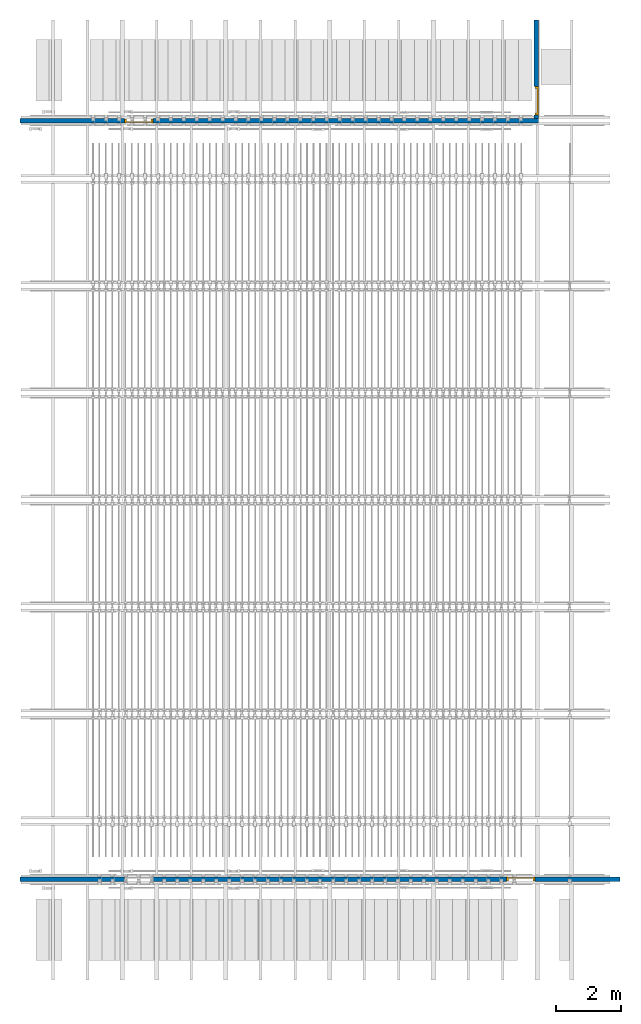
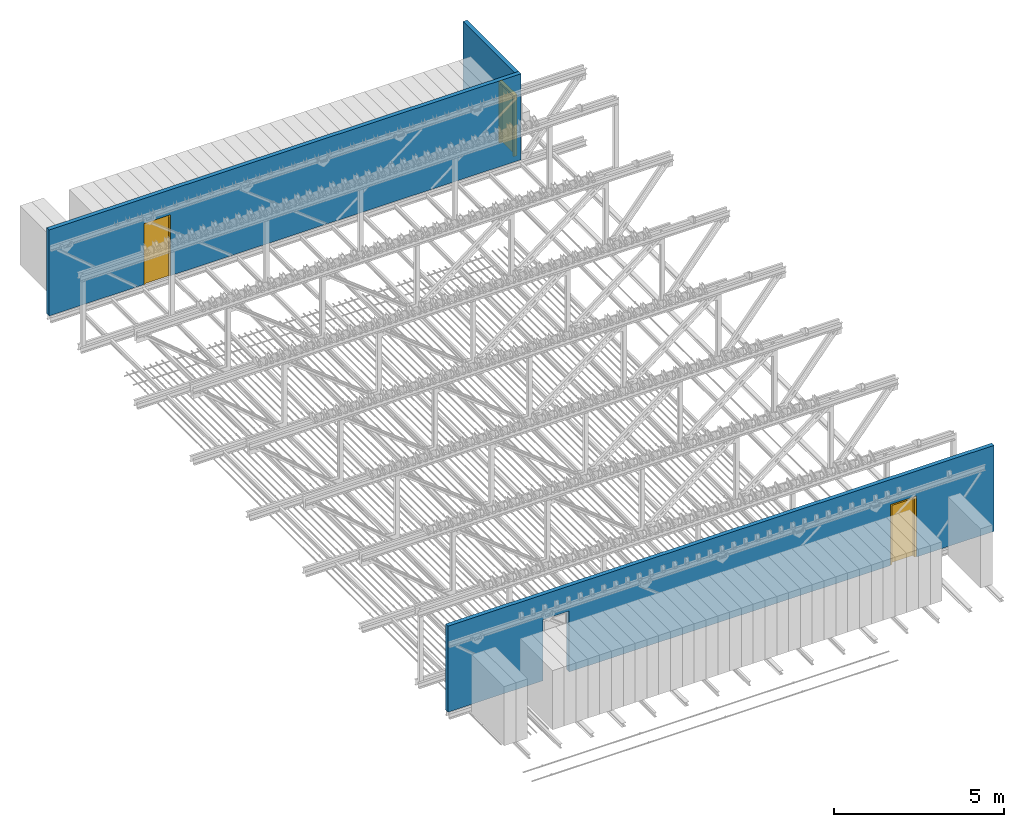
# One storey, part 4 of 8: 3 doors, 3 walls, 4 openings.
"""IFC2X3 building model written with IfcOpenShell, lengths in millimetres."""

from ifc_helpers import new_model, entity, si_unit, converted_unit, direction, frame, frame_2d, origin, place, context, subcontext, project, spatial, rectangle, extrude, faceted_brep, source, transform, mapped, material, material_list, layer, layer_set, layer_usage, type_object, type_shapes, element, fill, save


model = new_model("IFC2X3")

# Units and contexts
model_context = context("Model", 3, precision=0.01, world=origin(), true_north=direction((6.123233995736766e-17, 1.0)))
body_context = subcontext(model_context, "Body", "Model", "MODEL_VIEW")
ifc_project = project(units=[si_unit("LENGTHUNIT", "METRE", prefix="MILLI"), si_unit("AREAUNIT", "SQUARE_METRE"), converted_unit("PLANEANGLEUNIT", "DEGREE", entity("IfcPlaneAngleMeasure", 0.017453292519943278), si_unit("PLANEANGLEUNIT", "RADIAN"), dimensions=[0, 0, 0, 0, 0, 0, 0])], contexts=[model_context])

# Site, building, storey
site_placement = place(None, origin())
site = spatial("IfcSite", under=ifc_project, at=site_placement, Name="Default", CompositionType="ELEMENT")
building_placement = place(site_placement, origin())
building = spatial("IfcBuilding", under=site, at=building_placement, CompositionType="ELEMENT")
storey_placement = place(building_placement, frame((0.0, 0.0, 30550.0)))
storey = spatial("IfcBuildingStorey", under=building, at=storey_placement, Name="Rollenzolder", CompositionType="ELEMENT", Elevation=30550.000000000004)

# Wall, opening, door
ifc_material_1 = material(Name="NL_20_wand")
ifc_layer = layer(ifc_material_1, 140.0)
ifc_layer_set = layer_set([ifc_layer], Name="Basic Wall:AL_20_basis_140")
ifc_layer_usage_1 = layer_usage(ifc_layer_set, "AXIS2", "NEGATIVE", 70.0)
wall_type = type_object("IfcWallType", Name="Basic Wall:AL_20_basis_140", PredefinedType="STANDARD", material=ifc_layer_set)
wall_1_placement = place(storey_placement, frame((6586.744931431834, 36231.167906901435, 0.0)))
wall_1 = element("IfcWallStandardCase", 1, at=wall_1_placement, inside=storey, type_object=wall_type, material=ifc_layer_usage_1, Name="Basic Wall:AL_20_basis_140", ObjectType="Basic Wall:AL_20_basis_140", context=body_context, shape_type="SweptSolid", body=[
    extrude(rectangle(XDim=15989.999999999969, YDim=140.0000000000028, at=frame_2d((7994.9999999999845, 0.0), x_axis=(-1.0, 0.0))), origin(), (0.0, 0.0, 1.0), 3079.999999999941),
])
opening_1_placement = place(wall_1_placement, frame((4104.0, 70.0, 0.0)))
opening_1 = element("IfcOpeningElement", 2, at=opening_1_placement, cuts=wall_1, Name="Binnendeur enkel:780x2115:1", ObjectType="Opening", context=body_context, shape_type="SweptSolid", body=[
    extrude(rectangle(XDim=2186.9999999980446, YDim=883.9999999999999, at=frame_2d((1093.4999999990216, 441.99999999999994), x_axis=(1.0, 0.0))), frame((0.0, 0.0, 0.0), z_axis=(0.0, -1.0, 0.0), x_axis=(0.0, 0.0, 1.0)), (0.0, 0.0, 1.0), 140.0),
])
ifc_material_2 = material(Name="Kozijn")
ifc_material_3 = material(Name="Deur")
ifc_material_list = material_list([ifc_material_2, ifc_material_3])
door_style = type_object("IfcDoorStyle", Name="Binnendeur enkel:780x2115", ConstructionType="NOTDEFINED", OperationType="SINGLE_SWING_RIGHT", ParameterTakesPrecedence=False, Sizeable=False, material=ifc_material_list)
shared_shape = source(origin(), body_context, "Body", "Brep", [
    faceted_brep([(884.0, 26.0, 0.0), (817.0, 26.0, 0.0), (817.0, 95.0, 0.0), (834.0, 95.0, 0.0), (834.0, 140.0, 0.0), (884.0, 140.0, 0.0), (884.0, 26.0, 2186.9999999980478), (0.0, 26.0, 2186.9999999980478), (0.0, 26.0, 0.0), (67.0, 26.0, 0.0), (67.0, 26.0, 2119.999999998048), (817.0, 26.0, 2119.999999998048), (817.0, 95.0, 2119.999999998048), (67.0, 95.0, 2119.999999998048), (67.0, 95.0, 0.0), (50.0, 95.0, 0.0), (50.0, 95.0, 2136.999999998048), (834.0, 95.0, 2136.999999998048), (834.0, 140.0, 2136.999999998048), (50.0, 140.0, 2136.999999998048), (50.0, 140.0, 0.0), (0.0, 140.0, 0.0), (0.0, 140.0, 2186.9999999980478), (884.0, 140.0, 2186.9999999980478)], [[[0, 1, 2, 3, 4, 5]], [[1, 0, 6, 7, 8, 9, 10, 11]], [[2, 1, 11, 12]], [[3, 2, 12, 13, 14, 15, 16, 17]], [[4, 3, 17, 18]], [[5, 4, 18, 19, 20, 21, 22, 23]], [[0, 5, 23, 6]], [[7, 22, 21, 8]], [[8, 21, 20, 15, 14, 9]], [[13, 10, 9, 14]], [[19, 16, 15, 20]], [[12, 11, 10, 13]], [[18, 17, 16, 19]], [[6, 23, 22, 7]]]),
    faceted_brep([(52.0, 95.0, 2135.0), (52.0, 95.0, 20.0), (832.0, 95.0, 20.0), (832.0, 95.0, 2135.0), (52.0, 135.0, 2135.0), (52.0, 135.0, 20.0), (832.0, 135.0, 20.0), (832.0, 135.0, 2135.0)], [[[0, 1, 2, 3]], [[1, 0, 4, 5]], [[2, 1, 5, 6]], [[3, 2, 6, 7]], [[4, 7, 6, 5]], [[0, 3, 7, 4]]]),
])
type_shapes(door_style, [shared_shape])
door_1_placement = place(opening_1_placement, frame((0.0, 0.0, 0.0), z_axis=(0.0, 0.0, 1.0), x_axis=(-1.0, 0.0, 0.0)))
door_1 = element("IfcDoor", 3, at=door_1_placement, inside=storey, type_object=door_style, material=ifc_material_list, Name="Binnendeur enkel:780x2115", ObjectType="Binnendeur enkel:780x2115", OverallHeight=2186.999999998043, OverallWidth=884.0000000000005, context=body_context, shape_type="MappedRepresentation", body=[
    mapped(shared_shape, transform((0.0, 0.0, 0.0), scale=1.0)),
])
fill(opening_1, door_1)

ifc_layer_usage_2 = layer_usage(ifc_layer_set, "AXIS2", "NEGATIVE", 70.0)
wall_2_placement = place(storey_placement, frame((22506.744931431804, 36301.167906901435, 0.0), z_axis=(0.0, 0.0, 1.0), x_axis=(0.0, 1.0, 0.0)))
wall_2 = element("IfcWallStandardCase", 4, at=wall_2_placement, inside=storey, type_object=wall_type, material=ifc_layer_usage_2, Name="Basic Wall:AL_20_basis_140", ObjectType="Basic Wall:AL_20_basis_140", context=body_context, shape_type="SweptSolid", body=[
    extrude(rectangle(XDim=3030.000000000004, YDim=140.00000000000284, at=frame_2d((1515.000000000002, -4.973799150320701e-14), x_axis=(-1.0, 0.0))), origin(), (0.0, 0.0, 1.0), 3079.999999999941),
])
opening_2_placement = place(wall_2_placement, frame((980.4999999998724, 70.0, 0.0)))
opening_2 = element("IfcOpeningElement", 5, at=opening_2_placement, cuts=wall_2, Name="Binnendeur enkel:780x2115:1", ObjectType="Opening", context=body_context, shape_type="SweptSolid", body=[
    extrude(rectangle(XDim=2186.9999999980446, YDim=883.9999999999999, at=frame_2d((1093.4999999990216, 441.99999999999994), x_axis=(1.0, 0.0))), frame((0.0, 0.0, 0.0), z_axis=(0.0, -1.0, 0.0), x_axis=(0.0, 0.0, 1.0)), (0.0, 0.0, 1.0), 140.0),
])
door_2_placement = place(opening_2_placement, frame((0.0, 0.0, 0.0), z_axis=(0.0, 0.0, 1.0), x_axis=(-1.0, 0.0, 0.0)))
door_2 = element("IfcDoor", 6, at=door_2_placement, inside=storey, type_object=door_style, material=ifc_material_list, Name="Binnendeur enkel:780x2115", ObjectType="Binnendeur enkel:780x2115", OverallHeight=2186.999999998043, OverallWidth=883.9999999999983, context=body_context, shape_type="MappedRepresentation", body=[
    mapped(shared_shape, transform((0.0, 0.0, 0.0), scale=1.0)),
])
fill(opening_2, door_2)

# Wall, openings, door
ifc_layer_usage_3 = layer_usage(ifc_layer_set, "AXIS2", "POSITIVE", -70.0)
wall_3_placement = place(storey_placement, frame((6586.744931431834, 12831.167906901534, 0.0)))
wall_3 = element("IfcWallStandardCase", 7, at=wall_3_placement, inside=storey, type_object=wall_type, material=ifc_layer_usage_3, Name="Basic Wall:AL_20_basis_140", ObjectType="Basic Wall:AL_20_basis_140", context=body_context, shape_type="SweptSolid", body=[
    extrude(rectangle(XDim=18504.99999999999, YDim=140.00000000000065, at=frame_2d((9252.499999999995, -1.0800249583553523e-12), x_axis=(1.0, 0.0))), origin(), (0.0, 0.0, 1.0), 3079.999999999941),
])
opening_3_placement = place(wall_3_placement, frame((3220.0, -70.0, 0.0)))
element("IfcOpeningElement", 8, at=opening_3_placement, cuts=wall_3, Name="Binnendeur enkel:780x2115:1", ObjectType="Opening", context=body_context, shape_type="SweptSolid", body=[
    extrude(rectangle(XDim=2186.9999999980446, YDim=883.9999999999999, at=frame_2d((1093.4999999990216, 441.99999999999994), x_axis=(1.0, 0.0))), frame((0.0, 0.0, 0.0), z_axis=(0.0, 1.0, 0.0), x_axis=(0.0, 0.0, 1.0)), (0.0, 0.0, 1.0), 140.0),
])
opening_4_placement = place(wall_3_placement, frame((14996.0, -70.0, 0.0)))
opening_4 = element("IfcOpeningElement", 9, at=opening_4_placement, cuts=wall_3, Name="Binnendeur enkel:780x2115:1", ObjectType="Opening", context=body_context, shape_type="SweptSolid", body=[
    extrude(rectangle(XDim=2186.9999999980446, YDim=883.9999999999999, at=frame_2d((1093.4999999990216, 441.99999999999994), x_axis=(1.0, 0.0))), frame((0.0, 0.0, 0.0), z_axis=(0.0, 1.0, 0.0), x_axis=(0.0, 0.0, 1.0)), (0.0, 0.0, 1.0), 140.0),
])
door_3_placement = place(opening_4_placement, origin())
door_3 = element("IfcDoor", 10, at=door_3_placement, inside=storey, type_object=door_style, material=ifc_material_list, Name="Binnendeur enkel:780x2115", ObjectType="Binnendeur enkel:780x2115", OverallHeight=2186.999999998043, OverallWidth=883.9999999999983, context=body_context, shape_type="MappedRepresentation", body=[
    mapped(shared_shape, transform((0.0, 0.0, 0.0), scale=1.0)),
])
fill(opening_4, door_3)

save(model, "model.ifc")
